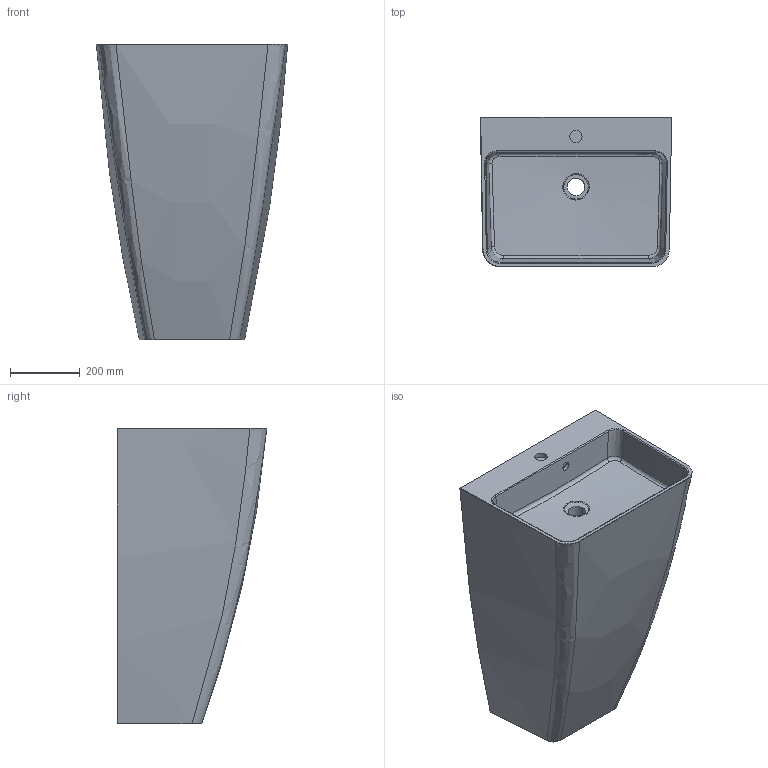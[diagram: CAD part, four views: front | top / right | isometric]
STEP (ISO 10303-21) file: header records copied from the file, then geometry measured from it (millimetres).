
FILE_DESCRIPTION(/* description */ (''),/* implementation_level */ '2;1');
FILE_NAME(/* name */ 'D:\Omnires\Export_Omnires\rys_step\5902539825831_stp.stp',/* time_stamp */ '2020-07-27T14:25:11+02:00',/* author */ (''),/* organization */ (''),/* preprocessor_version */ 'ST-DEVELOPER v18.1',/* originating_system */ 'Autodesk Inventor 2020',/* authorisation */ '');
FILE_SCHEMA (('AUTOMOTIVE_DESIGN { 1 0 10303 214 3 1 1 }'));
Length unit declared in the file: millimetre
Products named in the file (1): 5902539825831_dwg
Bounding box: 549.93 x 429.89 x 850 mm (x, y, z)
Surface area: 2312029 mm2 (no closed solid volume)
Topology: 0 solids, 1 shells, 57 faces, 151 edges, 93 vertices
Faces by surface type: bspline 42, plane 8, cylinder 4, cone 2, torus 1
Full cylindrical faces by diameter (mm): 25 x1, 35 x1, 50.004 x1
Entity records: 8405 total; most frequent: CARTESIAN_POINT 7236, ORIENTED_EDGE 292, EDGE_CURVE 146, DIRECTION 116, B_SPLINE_CURVE_WITH_KNOTS 96, VERTEX_POINT 93, EDGE_LOOP 61, FACE_OUTER_BOUND 57
